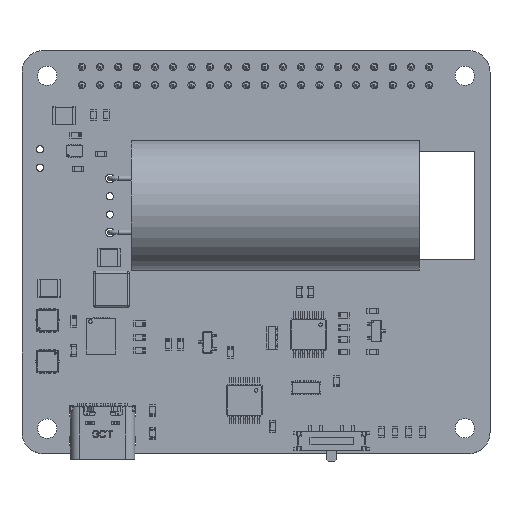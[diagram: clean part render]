
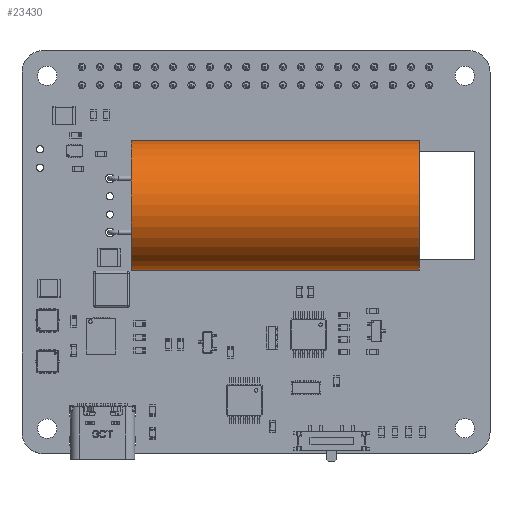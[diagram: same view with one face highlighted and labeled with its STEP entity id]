
A CAD part, top view. The second image highlights one B-rep face of the part: STEP entity #23430.
In plain terms, the highlighted cylindrical face has radius 9 mm (diameter 18 mm), a full revolution.
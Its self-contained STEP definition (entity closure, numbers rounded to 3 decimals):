
#23430 = ADVANCED_FACE('',(#23431),#23458,.T.);
#23431 = FACE_BOUND('',#23432,.T.);
#23432 = EDGE_LOOP('',(#23433,#23442,#23450,#23457));
#23433 = ORIENTED_EDGE('',*,*,#23434,.T.);
#23434 = EDGE_CURVE('',#23435,#23435,#23437,.T.);
#23435 = VERTEX_POINT('',#23436);
#23436 = CARTESIAN_POINT('',(9.,0.,0.));
#23437 = CIRCLE('',#23438,9.);
#23438 = AXIS2_PLACEMENT_3D('',#23439,#23440,#23441);
#23439 = CARTESIAN_POINT('',(0.,0.,0.));
#23440 = DIRECTION('',(0.,0.,1.));
#23441 = DIRECTION('',(1.,0.,-0.));
#23442 = ORIENTED_EDGE('',*,*,#23443,.T.);
#23443 = EDGE_CURVE('',#23435,#23444,#23446,.T.);
#23444 = VERTEX_POINT('',#23445);
#23445 = CARTESIAN_POINT('',(9.,0.,40.));
#23446 = LINE('',#23447,#23448);
#23447 = CARTESIAN_POINT('',(9.,0.,0.));
#23448 = VECTOR('',#23449,1.);
#23449 = DIRECTION('',(0.,0.,1.));
#23450 = ORIENTED_EDGE('',*,*,#23451,.F.);
#23451 = EDGE_CURVE('',#23444,#23444,#23452,.T.);
#23452 = CIRCLE('',#23453,9.);
#23453 = AXIS2_PLACEMENT_3D('',#23454,#23455,#23456);
#23454 = CARTESIAN_POINT('',(0.,0.,40.));
#23455 = DIRECTION('',(0.,0.,1.));
#23456 = DIRECTION('',(1.,0.,-0.));
#23457 = ORIENTED_EDGE('',*,*,#23443,.F.);
#23458 = CYLINDRICAL_SURFACE('',#23459,9.);
#23459 = AXIS2_PLACEMENT_3D('',#23460,#23461,#23462);
#23460 = CARTESIAN_POINT('',(0.,0.,0.));
#23461 = DIRECTION('',(-0.,-0.,-1.));
#23462 = DIRECTION('',(1.,0.,0.));
